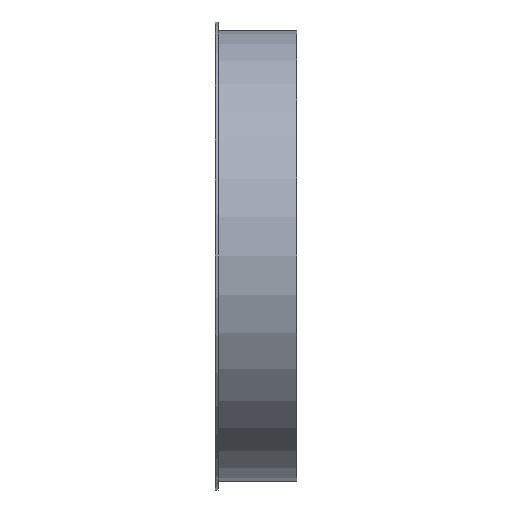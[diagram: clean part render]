
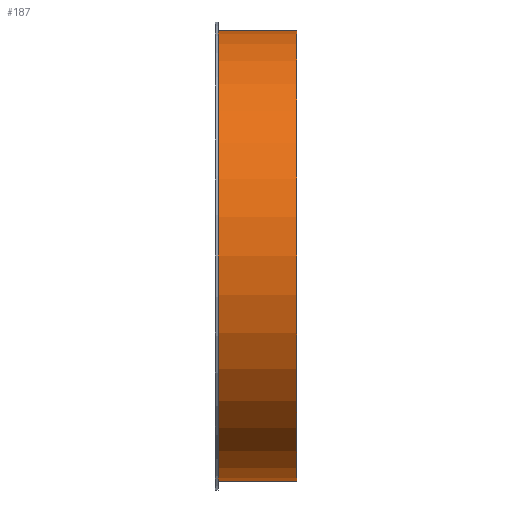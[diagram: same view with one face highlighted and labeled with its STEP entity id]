
A CAD part, front view. The second image highlights one B-rep face of the part: STEP entity #187.
In plain terms, the highlighted cylindrical face has radius 151.5 mm (diameter 303 mm), a full revolution.
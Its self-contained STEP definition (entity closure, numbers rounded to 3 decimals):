
#112=CARTESIAN_POINT('',(-15.,0.,0.0));
#113=VERTEX_POINT('',#112);
#114=CARTESIAN_POINT('',(-15.,151.5,0.0));
#115=DIRECTION('',(-1.0,0.0,0.0));
#116=DIRECTION('',(0.0,-1.0,0.0));
#117=AXIS2_PLACEMENT_3D('',#114,#115,#116);
#118=CIRCLE('',#117,151.5);
#119=EDGE_CURVE('',#113,#113,#118,.T.);
#161=CARTESIAN_POINT('',(38.0,0.,0.0));
#162=VERTEX_POINT('',#161);
#163=CARTESIAN_POINT('',(38.,151.5,0.0));
#164=DIRECTION('',(-1.0,0.0,0.0));
#165=DIRECTION('',(0.0,-1.0,0.0));
#166=AXIS2_PLACEMENT_3D('',#163,#164,#165);
#167=CIRCLE('',#166,151.5);
#168=EDGE_CURVE('',#162,#162,#167,.T.);
#176=CARTESIAN_POINT('',(11.5,151.5,0.0));
#177=DIRECTION('',(-1.0,0.,0.0));
#178=DIRECTION('',(0.0,-1.0,0.0));
#179=AXIS2_PLACEMENT_3D('',#176,#177,#178);
#180=CYLINDRICAL_SURFACE('',#179,151.5);
#181=ORIENTED_EDGE('',*,*,#119,.F.);
#182=EDGE_LOOP('',(#181));
#183=FACE_OUTER_BOUND('',#182,.T.);
#184=ORIENTED_EDGE('',*,*,#168,.T.);
#185=EDGE_LOOP('',(#184));
#186=FACE_BOUND('',#185,.T.);
#187=ADVANCED_FACE('',(#183,#186),#180,.T.);
